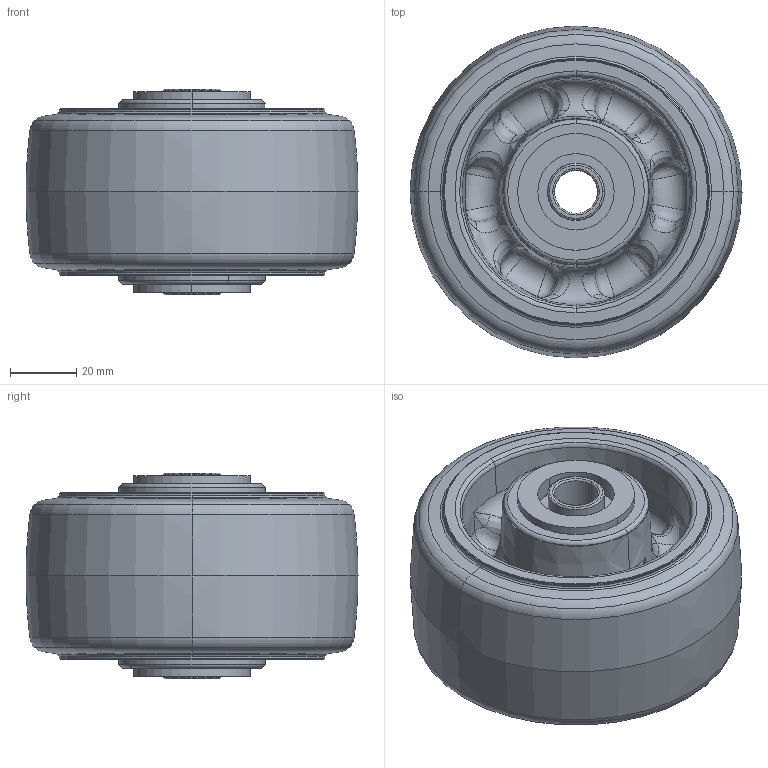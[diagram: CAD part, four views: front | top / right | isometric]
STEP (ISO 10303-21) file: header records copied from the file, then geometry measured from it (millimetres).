
FILE_DESCRIPTION((''),'2;1');
FILE_NAME('PRT0015','2025-09-19T10:36:03',('Administrator'),(''),'CREO PARAMETRIC BY PTC INC, 2022124','CREO PARAMETRIC BY PTC INC, 2022124','');
FILE_SCHEMA(('AUTOMOTIVE_DESIGN { 1 0 10303 214 1 1 1 1 }'));
Products named in the file (1): PRT0015
Bounding box: 100 x 100 x 62 mm (x, y, z)
Surface area: 47256.2 mm2 (no closed solid volume)
Topology: 0 solids, 8 shells, 298 faces, 724 edges, 426 vertices
Faces by surface type: bspline 140, torus 68, cylinder 66, cone 12, plane 12
Entity records: 35187 total; most frequent: CARTESIAN_POINT 27346, ORIENTED_EDGE 1380, DIRECTION 841, EDGE_CURVE 724, B_SPLINE_CURVE_WITH_KNOTS 456, VERTEX_POINT 426, AXIS2_PLACEMENT_3D 402, EDGE_LOOP 310
